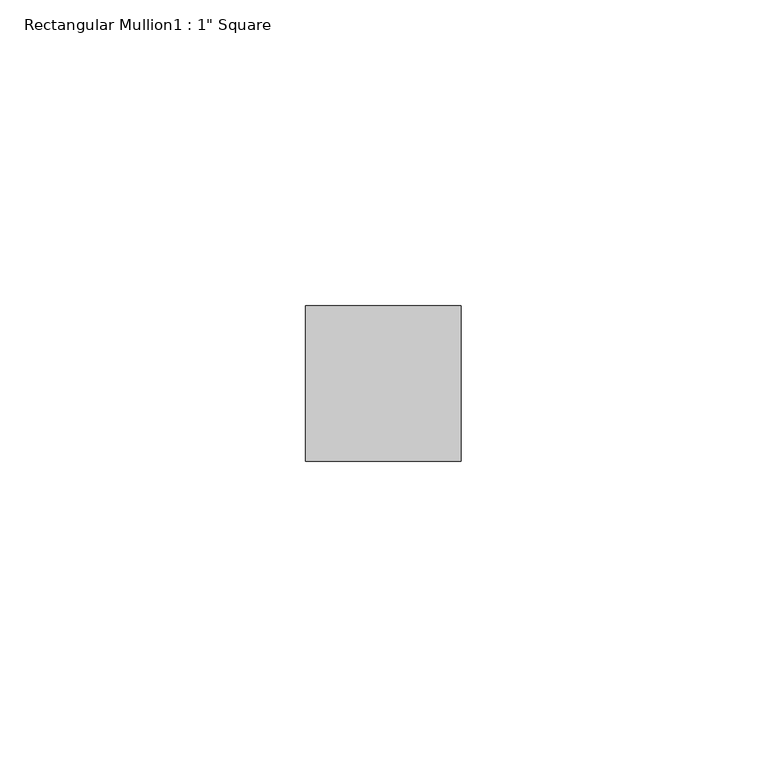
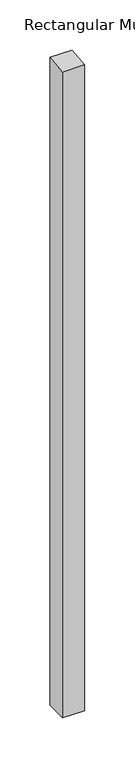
"""IFC4 building model written with IfcOpenShell, lengths in millimetres: member geometry."""

from ifc_helpers import new_model, si_unit, frame, origin, place, context, project, spatial, polyline, outline, extrude, source, transform, mapped, element, save


def member_382b1cd2(model_context):
    return source(origin(), model_context, "Body", "SweptSolid", [
        extrude(outline(polyline([(-44.45, -4.2341647), (-19.05, -1.814642), (-19.05, -790.0272395), (-44.45, -790.0272395), (-44.45, -4.2341647)])), frame((-25.4, 0.0, 0.0), z_axis=(1.0, 0.0, 0.0), x_axis=(0.0, 1.0, 0.0)), (0.0, 0.0, 1.0), 25.4),
    ])


if __name__ == "__main__":
    model = new_model("IFC4")
    model_context = context("Model", 3, world=origin())
    ifc_project = project(units=[si_unit("LENGTHUNIT", "METRE", prefix="MILLI")], contexts=[model_context])
    site = spatial("IfcSite", under=ifc_project)
    building = spatial("IfcBuilding", under=site)
    placement = place(None, origin())
    member_shape = member_382b1cd2(model_context)
    element("IfcMember", 1, ObjectType="Rectangular Mullion1 : 1\" Square", at=placement, inside=building, context=model_context, shape_type="MappedRepresentation", body=[
        mapped(member_shape, transform((0.0, 0.0, 0.0), x_axis=(1.0, 0.0, 0.0), y_axis=(0.0, 1.0, 0.0), z_axis=(0.0, 0.0, 1.0))),
    ])
    save(model, "model.ifc")
